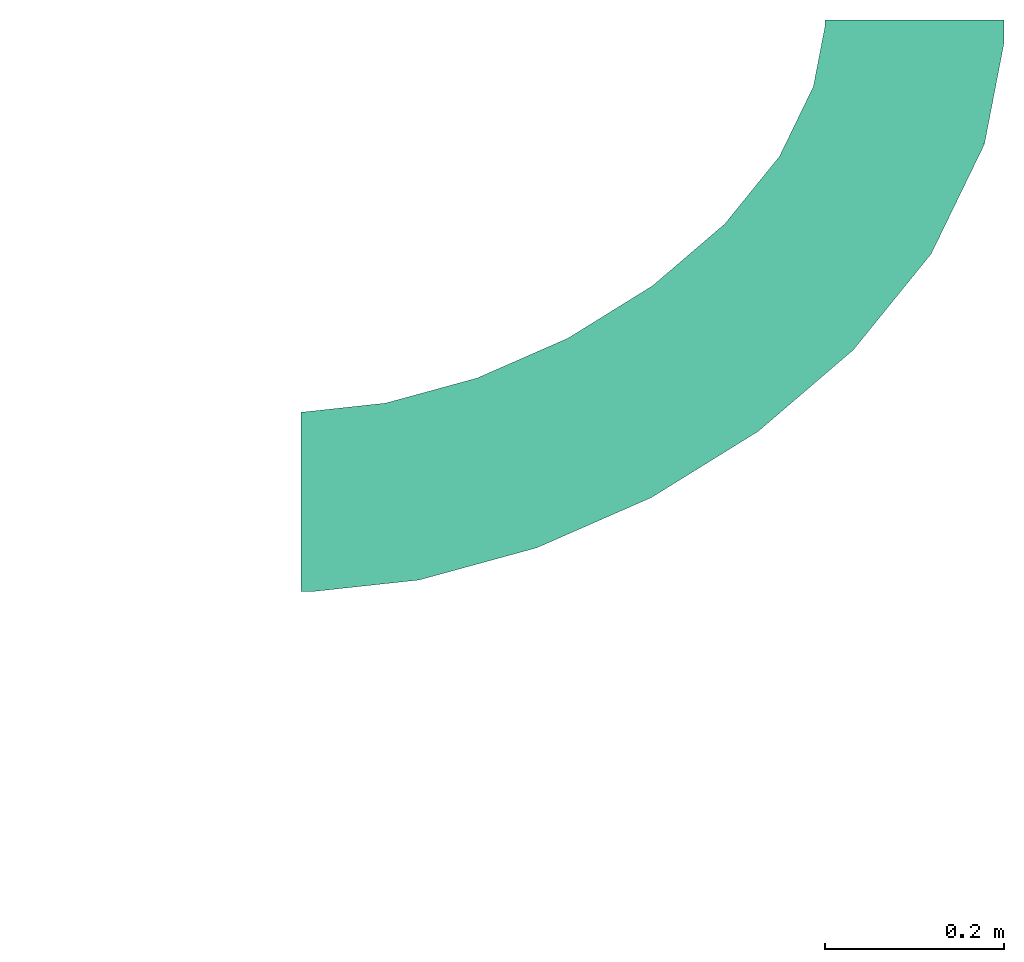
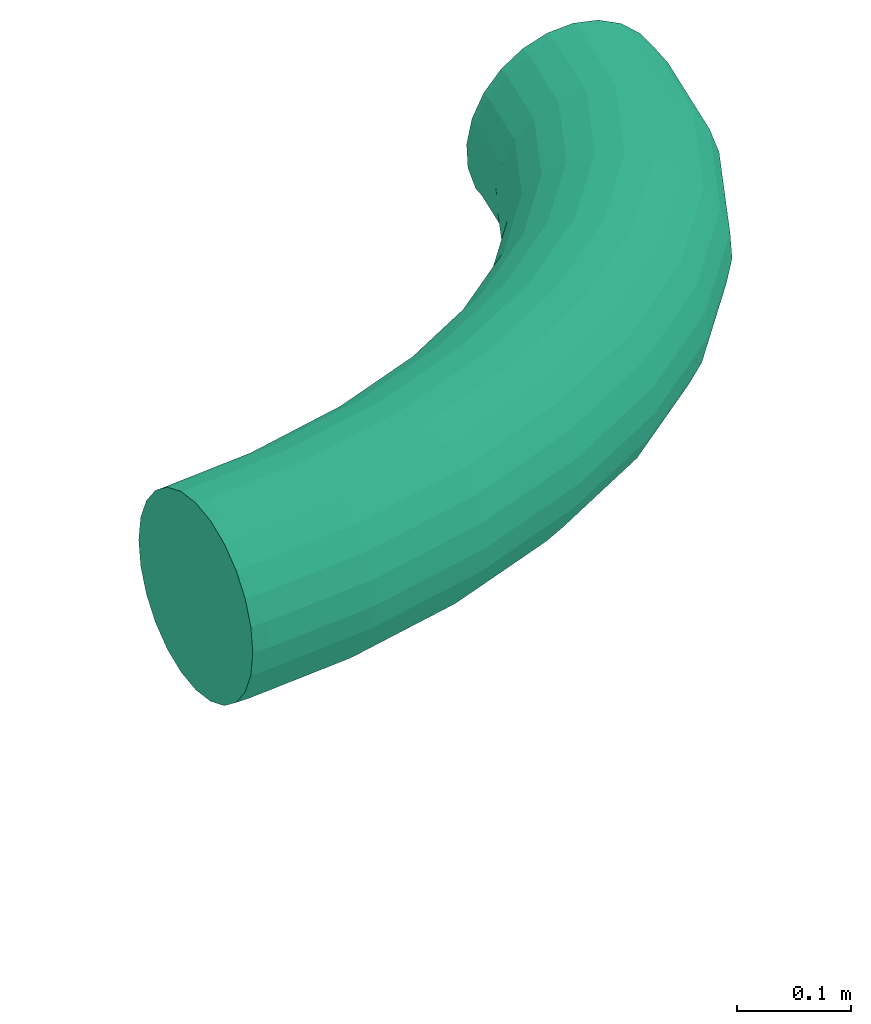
# One storey, part 1 of 3: 1 flow segment.
"""IFC2X3 building model written with IfcOpenShell, lengths in millimetres."""

from ifc_helpers import new_model, entity, si_unit, converted_unit, derived_unit, direction, frame, origin, place, context, subcontext, project, spatial, faceted_brep, type_object, element, save


model = new_model("IFC2X3")

# Units and contexts
model_context = context("Model", 3, precision=0.01, world=origin(), true_north=direction((6.123233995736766e-17, 1.0)))
body_context = subcontext(model_context, "Body", "Model", "MODEL_VIEW")
ifc_project = project(units=[si_unit("LENGTHUNIT", "METRE", prefix="MILLI"), converted_unit("PLANEANGLEUNIT", "DEGREE", entity("IfcPlaneAngleMeasure", 0.017453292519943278), si_unit("PLANEANGLEUNIT", "RADIAN"), dimensions=[0, 0, 0, 0, 0, 0, 0]), si_unit("AREAUNIT", "SQUARE_METRE"), derived_unit("THERMALTRANSMITTANCEUNIT", [(si_unit("MASSUNIT", "GRAM", prefix="KILO"), 1), (si_unit("THERMODYNAMICTEMPERATUREUNIT", "KELVIN"), -1), (si_unit("TIMEUNIT", "SECOND"), -3)])], contexts=[model_context])

# Site, building, storey
site_placement = place(None, origin())
site = spatial("IfcSite", under=ifc_project, at=site_placement, Name="Default", CompositionType="ELEMENT")
building_placement = place(site_placement, origin())
building = spatial("IfcBuilding", under=site, at=building_placement, Name="Praça Pedro II, 1301 - Centro (Sul), Teresina - PI, 64001-100", CompositionType="ELEMENT")
storey_placement = place(building_placement, origin())
storey = spatial("IfcBuildingStorey", under=building, at=storey_placement, Name="Nível 1", CompositionType="ELEMENT", Elevation=0.0)

# Flow segment
duct_segment_type = type_object("IfcDuctSegmentType", Name="Duto flexível redondo:Flexível - Redondo", PredefinedType="FLEXIBLESEGMENT")
flow_segment_placement = place(storey_placement, frame((37899.075860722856, -53653.755183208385, 2408.10438109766)))
element("IfcFlowSegment", 1, at=flow_segment_placement, inside=storey, type_object=duct_segment_type, Name="Duto flexível redondo:Flexível - Redondo", ObjectType="Duto flexível redondo:Flexível - Redondo", context=body_context, shape_type="Brep", body=[
    faceted_brep([(0.0, 5.002689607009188, 129.4704614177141), (0.0, 1.5952722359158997, 155.35236592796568), (0.0, 5.002689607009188, 181.23427043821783), (0.0, 14.992731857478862, 205.35236592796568), (0.0, 30.884594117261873, 226.0630440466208), (0.0, 51.59527223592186, 241.95490630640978), (0.0, 75.71336772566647, 251.94494855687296), (0.0, 101.59527223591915, 255.35236592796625), (0.0, 127.47717674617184, 251.94494855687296), (0.0, 151.59527223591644, 241.95490630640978), (0.0, 172.30595035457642, 226.0630440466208), (0.0, 188.19781261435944, 205.35236592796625), (0.0, 198.18785486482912, 181.23427043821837), (0.0, 201.5952722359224, 155.35236592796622), (0.0, 198.18785486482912, 129.4704614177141), (0.0, 188.19781261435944, 105.35236592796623), (0.0, 172.30595035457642, 84.64168780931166), (0.0, 151.59527223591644, 68.74982554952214), (0.0, 127.47717674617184, 58.759783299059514), (0.0, 101.59527223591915, 55.352365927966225), (0.0, 75.71336772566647, 58.759783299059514), (0.0, 51.59527223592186, 68.74982554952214), (0.0, 30.884594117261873, 84.64168780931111), (0.0, 14.992731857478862, 105.35236592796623), (4.6065181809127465, 188.19781261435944, 105.35236592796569), (5.232443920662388, 172.30595035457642, 84.64168780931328), (4.4453058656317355, 201.5952722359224, 155.35236592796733), (4.338040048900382, 198.18785486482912, 129.4704614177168), (7.364562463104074, 127.47717674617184, 58.759783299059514), (8.725454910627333, 101.59527223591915, 55.352365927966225), (6.173161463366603, 151.59527223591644, 68.7498255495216), (10.16309623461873, 75.71336772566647, 58.759783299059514), (11.579513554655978, 51.59527223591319, 68.7498255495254), (12.878180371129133, 30.884594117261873, 84.64168780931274), (13.970594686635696, 14.992731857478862, 105.35236592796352), (14.782310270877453, 5.002689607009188, 129.47046141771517), (15.258010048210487, 1.5952722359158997, 155.35236592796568), (15.36527586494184, 5.002689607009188, 181.2342704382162), (15.096797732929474, 14.992731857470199, 205.35236592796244), (14.470871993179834, 30.884594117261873, 226.06304404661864), (13.530154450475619, 51.59527223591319, 241.95490630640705), (12.338753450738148, 75.71336772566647, 251.94494855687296), (10.977861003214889, 101.59527223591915, 255.35236592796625), (9.540219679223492, 127.47717674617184, 251.94494855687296), (8.123802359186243, 151.59527223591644, 241.9549063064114), (6.825135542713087, 172.30595035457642, 226.0630440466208), (4.9210056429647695, 198.18785486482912, 181.2342704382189), (5.732721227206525, 188.19781261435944, 205.35236592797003), (650.0069745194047, 638.2598842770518, 7.069506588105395), (626.7687316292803, 638.2598842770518, 18.96351943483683), (607.4007097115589, 638.2598842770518, 36.466753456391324), (593.2228074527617, 638.2598842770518, 58.38639217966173), (585.201225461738, 638.2598842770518, 83.2286484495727), (583.8826212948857, 638.2598842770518, 109.30056355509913), (589.356855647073, 638.2598842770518, 134.82537956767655), (601.2508684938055, 638.2598842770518, 158.0636224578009), (618.7541025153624, 638.2598842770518, 177.43164437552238), (640.6737412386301, 638.2598842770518, 191.60954663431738), (665.5159975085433, 638.2598842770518, 199.63112862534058), (691.5879126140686, 638.2598842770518, 200.94973279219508), (717.112728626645, 638.2598842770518, 195.47549844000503), (740.3509715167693, 638.2598842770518, 183.5814855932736), (759.7189934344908, 638.2598842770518, 166.07825157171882), (773.8968956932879, 638.2598842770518, 144.15861284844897), (781.9184776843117, 638.2598842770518, 119.316356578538), (783.237081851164, 638.2598842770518, 93.24444147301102), (777.7628474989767, 638.2598842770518, 67.71962546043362), (765.8688346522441, 638.2598842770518, 44.48138257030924), (748.3656006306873, 638.2598842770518, 25.11336065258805), (726.4459619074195, 638.2598842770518, 10.935458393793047), (701.6037056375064, 638.2598842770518, 2.913876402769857), (675.5317905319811, 638.2598842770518, 1.595272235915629), (93.7014741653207, 207.88001680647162, 127.45147669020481), (94.68085431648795, 197.96707742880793, 103.3173198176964), (94.01709986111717, 211.31003243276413, 153.32867373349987), (96.88849717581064, 182.24676473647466, 82.57090602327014), (104.31333082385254, 137.99202739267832, 56.56942339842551), (109.02453146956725, 112.4734899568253, 53.08631263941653), (100.17395553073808, 161.79039206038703, 66.62606912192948), (113.98649692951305, 86.97382590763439, 56.41410508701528), (118.86107745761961, 63.23079520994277, 66.32601718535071), (123.3160784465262, 42.86244616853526, 82.1465685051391), (127.047898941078, 27.256848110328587, 102.79761461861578), (129.80222154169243, 17.47749675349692, 126.87182086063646), (131.39134371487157, 14.190838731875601, 152.72856986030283), (131.70696941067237, 17.620854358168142, 178.60576690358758), (130.72758925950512, 27.533793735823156, 202.73992377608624), (128.5199464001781, 43.25410642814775, 223.4863375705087), (125.23448804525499, 63.71047910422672, 239.4311744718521), (121.09511275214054, 87.50884377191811, 249.48782019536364), (116.38391210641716, 113.02738120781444, 252.970930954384), (111.42194664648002, 138.52704525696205, 249.64313850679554), (106.54736611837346, 162.27007595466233, 239.73122640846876), (102.09236512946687, 182.6384249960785, 223.91067508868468), (98.36054463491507, 198.24402305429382, 203.25962897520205), (95.6062220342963, 208.02337441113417, 179.18542273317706), (195.4468373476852, 235.71295731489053, 122.10341005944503), (197.32509159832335, 226.04590933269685, 97.9220054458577), (195.8724850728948, 239.17307000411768, 147.97482398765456), (201.37924790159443, 210.83071940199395, 77.07853290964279), (214.78067462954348, 168.21090825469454, 50.7629011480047), (223.2146599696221, 143.71075673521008, 47.08410873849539), (207.33302220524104, 191.10427757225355, 60.993440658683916), (232.06021606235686, 119.27346785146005, 50.20776705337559), (240.71453287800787, 96.56440245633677, 59.92100394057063), (248.58783302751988, 77.1311458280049, 75.56187835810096), (255.14356411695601, 62.29804229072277, 96.06449056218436), (259.9349639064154, 53.07594333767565, 120.03162141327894), (262.6355064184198, 50.09331977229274, 145.82995055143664), (263.0611541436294, 53.553432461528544, 171.70136447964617), (261.18289989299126, 63.22048044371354, 195.88276909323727), (257.12874358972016, 78.43567037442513, 216.72624162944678), (251.17496928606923, 98.16211220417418, 232.81133388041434), (243.72731686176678, 121.05548152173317, 243.04187339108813), (235.29333152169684, 145.55563304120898, 246.7206658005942), (226.44777542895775, 169.992921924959, 243.59700748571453), (217.79345861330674, 192.7019873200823, 233.8837705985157), (209.9201584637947, 212.13524394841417, 218.24289618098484), (203.36442737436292, 226.96834748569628, 197.74028397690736), (198.57302758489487, 236.19044643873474, 173.77315312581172), (296.95465015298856, 280.21850111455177, 114.43021396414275), (299.7826727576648, 270.96787385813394, 90.1770142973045), (297.3212665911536, 283.6527318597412, 140.30609019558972), (305.6126093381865, 256.53126505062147, 69.19930667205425), (324.5115221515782, 216.32179652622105, 42.46810799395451), (336.2925687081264, 193.28914563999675, 38.53630395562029), (314.0471593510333, 237.89250572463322, 52.92668719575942), (348.58744016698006, 170.36419016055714, 41.39922102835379), (360.55826135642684, 149.10922791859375, 50.86175614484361), (371.38924059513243, 130.97274946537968, 66.27905317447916), (380.3422645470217, 117.19072583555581, 86.60044880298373), (386.80719942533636, 108.702379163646, 110.44107350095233), (390.34347060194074, 106.08617624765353, 136.17622809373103), (390.7100870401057, 109.52040699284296, 162.05210432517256), (387.88206443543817, 118.77103424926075, 186.3053039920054), (382.05212785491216, 133.20764305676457, 207.28301161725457), (373.617577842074, 151.84640238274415, 223.5556310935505), (363.15321504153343, 173.41711158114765, 234.01421029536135), (351.3721684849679, 196.44976246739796, 237.9460143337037), (339.07729702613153, 219.3747179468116, 235.08309726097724), (327.10647583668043, 240.62968018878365, 225.62056214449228), (316.27549659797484, 258.76615864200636, 210.2032651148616), (307.3224726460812, 272.5481822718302, 189.8818694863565), (300.8575377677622, 281.0365289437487, 166.04124478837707), (391.4843473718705, 338.8320930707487, 105.64138356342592), (395.3582901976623, 330.2299936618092, 81.29094021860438), (391.6405642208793, 342.13586454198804, 131.5368215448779), (402.998389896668, 316.91578517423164, 60.144933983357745), (427.273244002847, 280.03969482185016, 32.91391104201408), (442.2537072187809, 258.9908575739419, 28.68464354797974), (413.88398630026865, 299.79680891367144, 43.644430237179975), (457.8044821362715, 238.08474064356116, 31.244845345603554), (472.86580914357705, 218.74606135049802, 40.42004291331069), (486.41128369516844, 202.29271872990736, 55.584961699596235), (497.51780408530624, 189.8459808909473, 75.70613755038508), (505.42847930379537, 182.25407244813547, 99.41234558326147), (509.60420990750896, 180.0343694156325, 125.08804689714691), (509.7604267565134, 183.33814088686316, 150.98348487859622), (505.88648393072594, 191.94024029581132, 175.33392822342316), (498.24638423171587, 205.2544487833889, 196.47993445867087), (487.3607878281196, 222.37342504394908, 212.98043820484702), (473.97153012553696, 242.1305391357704, 223.71095740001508), (458.99106690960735, 263.17937638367, 227.94022489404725), (443.44029199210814, 284.08549331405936, 225.3800230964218), (428.37896498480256, 303.4241726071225, 216.20482552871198), (414.8334904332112, 319.87751522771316, 201.03990674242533), (403.7269700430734, 332.32425306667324, 180.91873089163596), (395.8162948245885, 339.9161615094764, 157.2125228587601), (472.3548537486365, 408.1048552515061, 97.02472311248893), (477.4195592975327, 400.52274973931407, 72.54740535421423), (472.1595005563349, 411.1074757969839, 122.95762048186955), (487.0084658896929, 388.8778672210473, 51.193755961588), (516.8812256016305, 356.7968795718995, 23.36628254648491), (535.1292995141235, 338.5470407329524, 18.78885485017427), (500.4681053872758, 373.96378719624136, 34.418990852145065), (553.9687510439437, 320.45796703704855, 20.998651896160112), (572.1157027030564, 303.7623989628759, 29.84507966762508), (588.3334697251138, 289.59811188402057, 44.725268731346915), (601.516838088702, 278.9303785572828, 64.62515879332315), (610.7673830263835, 272.4861873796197, 88.18860523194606), (615.4546951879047, 270.704699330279, 113.80979811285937), (615.2593419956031, 273.7073198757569, 139.74269548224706), (610.1946364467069, 281.2894253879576, 164.22001324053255), (600.6057298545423, 292.93430790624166, 185.57366263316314), (587.1460903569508, 307.8483879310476, 202.34842774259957), (570.7329701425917, 325.01529555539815, 213.40113604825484), (552.4848962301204, 343.26513439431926, 217.978563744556), (533.6454447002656, 361.3542080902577, 215.7687666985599), (515.498493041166, 378.04977616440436, 206.92233892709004), (499.2807260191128, 392.2140632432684, 192.04214986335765), (486.097357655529, 402.8817965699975, 172.14225980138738), (476.84681271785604, 409.32598774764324, 148.5788133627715), (533.664566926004, 483.7854106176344, 89.82570229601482), (540.0473083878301, 477.830285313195, 65.19362002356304), (532.9998112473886, 486.2086019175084, 115.81371716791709), (551.7130623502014, 468.7490579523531, 43.5961060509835), (587.4077498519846, 443.85464328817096, 15.085018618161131), (609.0041494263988, 429.7379692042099, 10.114428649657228), (567.8668269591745, 457.1605991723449, 26.5049952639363), (631.1842667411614, 415.7726049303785, 11.931962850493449), (652.4365634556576, 402.9102669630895, 20.4137592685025), (671.3127306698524, 392.02750237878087, 34.9817974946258), (686.5263887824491, 383.8659535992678, 54.6432897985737), (697.040752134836, 378.98181668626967, 78.05833797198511), (702.1392842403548, 377.7079374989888, 103.63124517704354), (701.4745285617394, 380.13112879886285, 129.61926004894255), (695.0917870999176, 386.08625410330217, 154.25134232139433), (683.4260331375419, 395.16748146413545, 175.84885629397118), (667.2722685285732, 406.75594024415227, 192.93996708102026), (647.7313456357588, 420.0618961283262, 204.3599437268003), (626.1349460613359, 434.1785702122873, 209.3305336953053), (603.9548287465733, 448.14393448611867, 207.51299949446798), (582.7025320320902, 461.00627245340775, 199.0312030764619), (563.826364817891, 471.8890370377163, 184.46316485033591), (548.6127067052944, 480.05058581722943, 164.801672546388), (538.0983433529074, 484.9347227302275, 141.38662437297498), (571.8773665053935, 562.4655298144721, 85.00119772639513), (579.4176174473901, 558.8937154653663, 60.22297568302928), (570.7577405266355, 563.952143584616, 111.0466416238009), (592.8646377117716, 553.4801137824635, 38.40057037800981), (633.4733314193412, 538.703633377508, 9.269071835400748), (657.8675894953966, 530.3477473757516, 3.9452420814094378), (611.3020350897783, 546.5936527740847, 21.02114266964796), (682.822380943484, 522.0954345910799, 5.412463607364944), (706.6370779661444, 514.5090765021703, 13.570747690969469), (727.6887483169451, 508.10567087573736, 27.864120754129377), (744.5427554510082, 503.3215992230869, 47.31851304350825), (756.050526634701, 500.4828881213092, 70.60813987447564), (761.4278262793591, 499.782991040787, 96.14585166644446), (760.3082003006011, 501.2696048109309, 122.1912955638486), (752.767949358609, 504.8414191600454, 146.96951760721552), (739.3209290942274, 510.25502084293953, 168.79192291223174), (720.8835317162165, 517.141481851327, 186.1713506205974), (698.7122353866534, 525.031501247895, 197.92342145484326), (674.317977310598, 533.3873872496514, 203.24725120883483), (649.3631858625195, 541.6397000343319, 201.7800296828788), (625.5484888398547, 549.2260581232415, 193.62174559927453), (604.4968184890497, 555.6294637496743, 179.32837253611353), (587.6428113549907, 560.4135354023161, 159.87398024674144), (576.1350401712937, 563.2522465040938, 136.5843534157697), (585.2012254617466, 631.2607792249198, 83.22864844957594), (593.2228074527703, 630.1742275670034, 58.38639217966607), (583.8826212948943, 631.7200064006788, 109.30056355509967), (607.4007097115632, 628.5343981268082, 36.46675345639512), (650.0069745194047, 624.0720018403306, 7.069506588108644), (675.5317905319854, 621.5535399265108, 1.5952722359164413), (626.7687316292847, 626.4530425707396, 18.963519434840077), (701.6037056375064, 619.0692858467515, 2.9138764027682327), (726.4459619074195, 616.7885374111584, 10.935458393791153), (748.3656006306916, 614.8667238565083, 25.113360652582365), (765.8688346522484, 613.4348136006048, 44.481382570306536), (777.762847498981, 612.5903889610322, 67.71962546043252), (783.2370818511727, 612.3909960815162, 93.24444147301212), (781.9184776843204, 612.8502232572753, 119.316356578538), (773.8968956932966, 613.9367749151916, 144.1586128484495), (759.7189934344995, 615.5766043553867, 166.07825157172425), (740.3509715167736, 617.6579599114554, 183.5814855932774), (717.112728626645, 620.0390006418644, 195.47549844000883), (691.5879126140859, 622.5574625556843, 200.94973279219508), (665.5159975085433, 625.0417166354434, 199.63112862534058), (640.6737412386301, 627.3224650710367, 191.60954663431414), (618.7541025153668, 629.2442786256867, 177.43164437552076), (601.2508684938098, 630.6761888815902, 158.06362245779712), (589.3568556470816, 631.5206135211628, 134.8253795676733)], [[[0, 1, 2, 3, 4, 5, 6, 7, 8, 9, 10, 11, 12, 13, 14, 15, 16, 17, 18, 19, 20, 21, 22, 23]], [[15, 24, 25, 16]], [[13, 26, 27, 14]], [[15, 14, 27, 24]], [[28, 29, 19, 18]], [[30, 28, 18, 17]], [[25, 30, 17, 16]], [[21, 20, 31, 32]], [[22, 21, 32, 33]], [[19, 29, 31, 20]], [[0, 23, 34, 35]], [[1, 0, 35, 36]], [[33, 34, 23, 22]], [[2, 1, 36, 37]], [[2, 37, 38, 3]], [[3, 38, 39, 4]], [[5, 40, 41, 6]], [[6, 41, 42, 7]], [[4, 39, 40, 5]], [[43, 44, 9, 8]], [[42, 43, 8, 7]], [[9, 44, 45, 10]], [[46, 26, 13, 12]], [[47, 46, 12, 11]], [[10, 45, 47, 11]], [[48, 49, 50, 51, 52, 53, 54, 55, 56, 57, 58, 59, 60, 61, 62, 63, 64, 65, 66, 67, 68, 69, 70, 71]], [[72, 73, 24, 27]], [[74, 72, 27, 26]], [[25, 24, 73, 75]], [[76, 77, 29, 28]], [[78, 76, 28, 30]], [[75, 78, 30, 25]], [[31, 29, 77, 79]], [[32, 31, 79, 80]], [[33, 32, 80, 81]], [[35, 34, 82, 83]], [[36, 35, 83, 84]], [[81, 82, 34, 33]], [[36, 84, 85, 37]], [[37, 85, 86, 38]], [[38, 86, 87, 39]], [[39, 87, 88, 40]], [[40, 88, 89, 41]], [[90, 42, 41, 89]], [[91, 92, 44, 43]], [[90, 91, 43, 42]], [[93, 45, 44, 92]], [[94, 95, 46, 47]], [[94, 47, 45, 93]], [[74, 26, 46, 95]], [[96, 97, 73, 72]], [[98, 96, 72, 74]], [[99, 75, 73, 97]], [[100, 101, 77, 76]], [[102, 100, 76, 78]], [[102, 78, 75, 99]], [[77, 101, 103, 79]], [[79, 103, 104, 80]], [[105, 81, 80, 104]], [[82, 106, 107, 83]], [[83, 107, 108, 84]], [[106, 82, 81, 105]], [[84, 108, 109, 85]], [[85, 109, 110, 86]], [[110, 111, 87, 86]], [[88, 87, 111, 112]], [[89, 88, 112, 113]], [[90, 89, 113, 114]], [[115, 116, 92, 91]], [[114, 115, 91, 90]], [[93, 92, 116, 117]], [[118, 119, 95, 94]], [[117, 118, 94, 93]], [[74, 95, 119, 98]], [[120, 121, 97, 96]], [[122, 120, 96, 98]], [[99, 97, 121, 123]], [[124, 125, 101, 100]], [[126, 124, 100, 102]], [[123, 126, 102, 99]], [[101, 125, 127, 103]], [[103, 127, 128, 104]], [[129, 105, 104, 128]], [[106, 130, 131, 107]], [[107, 131, 132, 108]], [[130, 106, 105, 129]], [[108, 132, 133, 109]], [[109, 133, 134, 110]], [[110, 134, 135, 111]], [[111, 135, 136, 112]], [[113, 112, 136, 137]], [[114, 113, 137, 138]], [[139, 140, 116, 115]], [[138, 139, 115, 114]], [[117, 116, 140, 141]], [[142, 143, 119, 118]], [[141, 142, 118, 117]], [[98, 119, 143, 122]], [[144, 145, 121, 120]], [[146, 144, 120, 122]], [[123, 121, 145, 147]], [[148, 149, 125, 124]], [[150, 148, 124, 126]], [[147, 150, 126, 123]], [[127, 125, 149, 151]], [[128, 127, 151, 152]], [[129, 128, 152, 153]], [[130, 154, 155, 131]], [[131, 155, 156, 132]], [[153, 154, 130, 129]], [[132, 156, 157, 133]], [[133, 157, 158, 134]], [[134, 158, 159, 135]], [[135, 159, 160, 136]], [[136, 160, 161, 137]], [[162, 138, 137, 161]], [[163, 164, 140, 139]], [[162, 163, 139, 138]], [[165, 141, 140, 164]], [[166, 167, 143, 142]], [[166, 142, 141, 165]], [[122, 143, 167, 146]], [[168, 169, 145, 144]], [[170, 168, 144, 146]], [[147, 145, 169, 171]], [[172, 173, 149, 148]], [[174, 172, 148, 150]], [[171, 174, 150, 147]], [[151, 149, 173, 175]], [[152, 151, 175, 176]], [[153, 152, 176, 177]], [[155, 154, 178, 179]], [[155, 179, 180, 156]], [[177, 178, 154, 153]], [[156, 180, 181, 157]], [[157, 181, 182, 158]], [[158, 182, 183, 159]], [[159, 183, 184, 160]], [[160, 184, 185, 161]], [[186, 162, 161, 185]], [[187, 188, 164, 163]], [[186, 187, 163, 162]], [[189, 165, 164, 188]], [[190, 191, 167, 166]], [[190, 166, 165, 189]], [[146, 167, 191, 170]], [[192, 193, 169, 168]], [[194, 192, 168, 170]], [[171, 169, 193, 195]], [[196, 197, 173, 172]], [[198, 196, 172, 174]], [[195, 198, 174, 171]], [[175, 173, 197, 199]], [[176, 175, 199, 200]], [[177, 176, 200, 201]], [[179, 178, 202, 203]], [[180, 179, 203, 204]], [[201, 202, 178, 177]], [[180, 204, 205, 181]], [[181, 205, 206, 182]], [[182, 206, 207, 183]], [[183, 207, 208, 184]], [[184, 208, 209, 185]], [[210, 186, 185, 209]], [[211, 212, 188, 187]], [[210, 211, 187, 186]], [[213, 189, 188, 212]], [[214, 215, 191, 190]], [[214, 190, 189, 213]], [[194, 170, 191, 215]], [[216, 217, 193, 192]], [[218, 216, 192, 194]], [[195, 193, 217, 219]], [[220, 221, 197, 196]], [[222, 220, 196, 198]], [[219, 222, 198, 195]], [[199, 197, 221, 223]], [[200, 199, 223, 224]], [[201, 200, 224, 225]], [[203, 202, 226, 227]], [[203, 227, 228, 204]], [[225, 226, 202, 201]], [[204, 228, 229, 205]], [[205, 229, 230, 206]], [[206, 230, 231, 207]], [[207, 231, 232, 208]], [[208, 232, 233, 209]], [[234, 210, 209, 233]], [[235, 236, 212, 211]], [[234, 235, 211, 210]], [[237, 213, 212, 236]], [[238, 239, 215, 214]], [[238, 214, 213, 237]], [[194, 215, 239, 218]], [[240, 241, 217, 216]], [[242, 240, 216, 218]], [[243, 219, 217, 241]], [[244, 245, 221, 220]], [[246, 244, 220, 222]], [[246, 222, 219, 243]], [[221, 245, 247, 223]], [[223, 247, 248, 224]], [[249, 225, 224, 248]], [[226, 250, 251, 227]], [[227, 251, 252, 228]], [[250, 226, 225, 249]], [[229, 228, 252, 253]], [[230, 229, 253, 254]], [[254, 255, 231, 230]], [[232, 231, 255, 256]], [[233, 232, 256, 257]], [[234, 233, 257, 258]], [[259, 260, 236, 235]], [[258, 259, 235, 234]], [[237, 236, 260, 261]], [[262, 263, 239, 238]], [[261, 262, 238, 237]], [[218, 239, 263, 242]], [[242, 53, 52, 240]], [[240, 52, 51, 241]], [[241, 51, 50, 243]], [[246, 49, 48, 244]], [[244, 48, 71, 245]], [[246, 243, 50, 49]], [[245, 71, 70, 247]], [[247, 70, 69, 248]], [[248, 69, 68, 249]], [[250, 67, 66, 251]], [[251, 66, 65, 252]], [[249, 68, 67, 250]], [[253, 252, 65, 64]], [[254, 253, 64, 63]], [[255, 254, 63, 62]], [[257, 256, 61, 60]], [[258, 257, 60, 59]], [[62, 61, 256, 255]], [[259, 258, 59, 58]], [[260, 259, 58, 57]], [[261, 260, 57, 56]], [[263, 262, 55, 54]], [[242, 263, 54, 53]], [[261, 56, 55, 262]]]),
])

save(model, "model.ifc")
